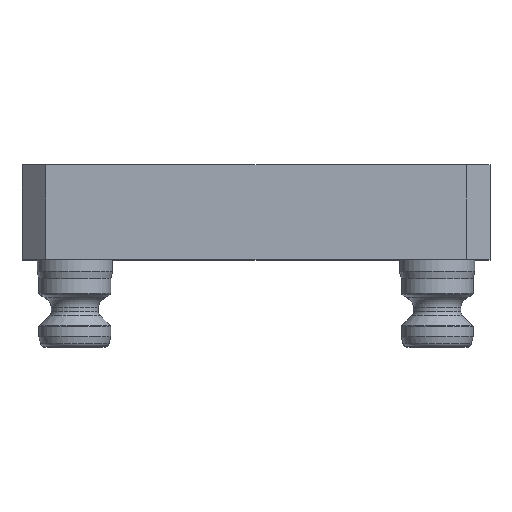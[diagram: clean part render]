
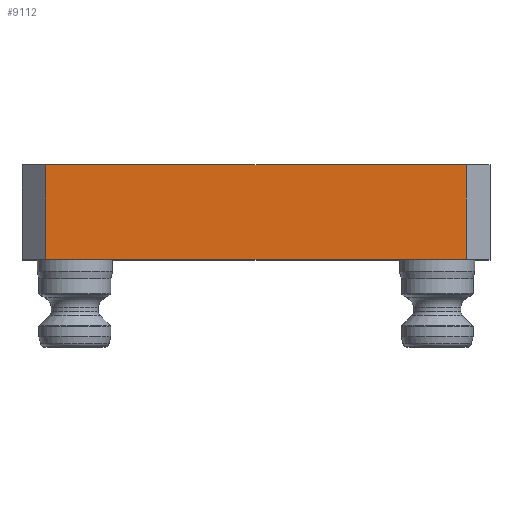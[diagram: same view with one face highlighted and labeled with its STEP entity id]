
A CAD part, top view. The second image highlights one B-rep face of the part: STEP entity #9112.
In plain terms, the highlighted planar face has unit normal (0, 0, 1).
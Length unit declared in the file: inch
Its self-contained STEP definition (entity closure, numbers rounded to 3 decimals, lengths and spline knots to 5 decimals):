
#282 = VERTEX_POINT ( 'NONE', #7447 ) ;
#378 = EDGE_CURVE ( 'NONE', #2705, #282, #2384, .T. ) ;
#455 = LINE ( 'NONE', #9484, #6322 ) ;
#628 = EDGE_CURVE ( 'NONE', #4249, #282, #455, .T. ) ;
#901 = DIRECTION ( 'NONE',  ( -1., 0., 0. ) ) ;
#973 = VECTOR ( 'NONE', #5217, 39.37008 ) ;
#982 = DIRECTION ( 'NONE',  ( 1., 0., 0. ) ) ;
#1406 = DIRECTION ( 'NONE',  ( 0., 1., 0. ) ) ;
#2384 = LINE ( 'NONE', #5996, #2919 ) ;
#2705 = VERTEX_POINT ( 'NONE', #3072 ) ;
#2919 = VECTOR ( 'NONE', #9578, 39.37008 ) ;
#3072 = CARTESIAN_POINT ( 'NONE',  ( -2.19094, 0.98425, 2.44094 ) ) ;
#3376 = LINE ( 'NONE', #6989, #973 ) ;
#3840 = ORIENTED_EDGE ( 'NONE', *, *, #4201, .T. ) ;
#4201 = EDGE_CURVE ( 'NONE', #2705, #10158, #3376, .T. ) ;
#4230 = CARTESIAN_POINT ( 'NONE',  ( -2.19094, 0., 2.44094 ) ) ;
#4249 = VERTEX_POINT ( 'NONE', #5336 ) ;
#4596 = ORIENTED_EDGE ( 'NONE', *, *, #378, .F. ) ;
#4762 = ORIENTED_EDGE ( 'NONE', *, *, #10263, .T. ) ;
#5082 = VECTOR ( 'NONE', #982, 39.37008 ) ;
#5217 = DIRECTION ( 'NONE',  ( 0., -1., 0. ) ) ;
#5336 = CARTESIAN_POINT ( 'NONE',  ( 2.19094, 0., 2.44094 ) ) ;
#5395 = FACE_OUTER_BOUND ( 'NONE', #8011, .T. ) ;
#5988 = AXIS2_PLACEMENT_3D ( 'NONE', #11637, #8882, #901 ) ;
#5996 = CARTESIAN_POINT ( 'NONE',  ( -2.44094, 0.98425, 2.44094 ) ) ;
#6322 = VECTOR ( 'NONE', #1406, 39.37008 ) ;
#6989 = CARTESIAN_POINT ( 'NONE',  ( -2.19094, 0.98425, 2.44094 ) ) ;
#7447 = CARTESIAN_POINT ( 'NONE',  ( 2.19094, 0.98425, 2.44094 ) ) ;
#8011 = EDGE_LOOP ( 'NONE', ( #4596, #3840, #4762, #9689 ) ) ;
#8088 = LINE ( 'NONE', #9868, #5082 ) ;
#8882 = DIRECTION ( 'NONE',  ( 0., 0., -1. ) ) ;
#9112 = ADVANCED_FACE ( 'NONE', ( #5395 ), #10797, .F. ) ;
#9484 = CARTESIAN_POINT ( 'NONE',  ( 2.19094, 0.98425, 2.44094 ) ) ;
#9578 = DIRECTION ( 'NONE',  ( 1., 0., 0. ) ) ;
#9689 = ORIENTED_EDGE ( 'NONE', *, *, #628, .T. ) ;
#9868 = CARTESIAN_POINT ( 'NONE',  ( -2.44094, 0., 2.44094 ) ) ;
#10158 = VERTEX_POINT ( 'NONE', #4230 ) ;
#10263 = EDGE_CURVE ( 'NONE', #10158, #4249, #8088, .T. ) ;
#10797 = PLANE ( 'NONE',  #5988 ) ;
#11637 = CARTESIAN_POINT ( 'NONE',  ( -2.44094, 0.98425, 2.44094 ) ) ;
